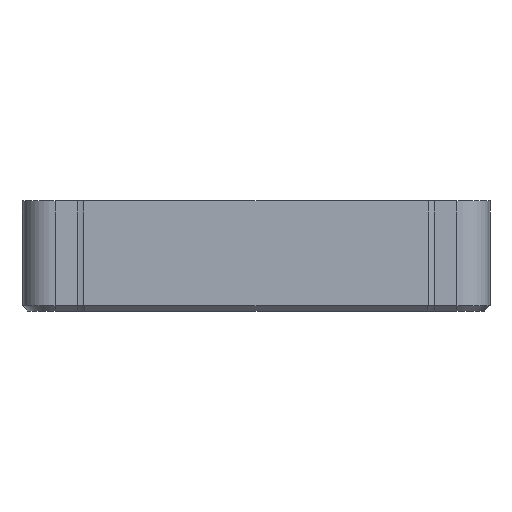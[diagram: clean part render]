
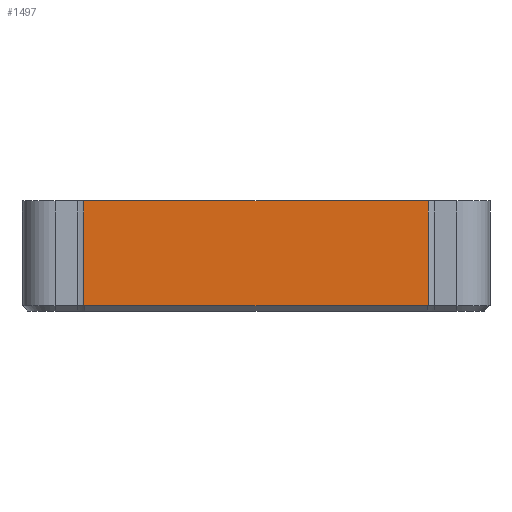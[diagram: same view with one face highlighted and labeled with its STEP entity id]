
A CAD part, front view. The second image highlights one B-rep face of the part: STEP entity #1497.
In plain terms, the highlighted planar face has unit normal (0, -1, 0).
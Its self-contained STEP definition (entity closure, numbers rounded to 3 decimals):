
#19 = ORIENTED_EDGE ( 'NONE', *, *, #1527, .T. ) ;
#36 = ORIENTED_EDGE ( 'NONE', *, *, #651, .F. ) ;
#68 = VECTOR ( 'NONE', #501, 1000. ) ;
#75 = EDGE_CURVE ( 'NONE', #1504, #1336, #1165, .T. ) ;
#89 = ORIENTED_EDGE ( 'NONE', *, *, #75, .T. ) ;
#97 = FACE_OUTER_BOUND ( 'NONE', #753, .T. ) ;
#262 = CARTESIAN_POINT ( 'NONE',  ( -62.502, -110., 40. ) ) ;
#268 = VERTEX_POINT ( 'NONE', #455 ) ;
#357 = PLANE ( 'NONE',  #1709 ) ;
#376 = CARTESIAN_POINT ( 'NONE',  ( -62.502, -110., 32. ) ) ;
#385 = LINE ( 'NONE', #639, #1480 ) ;
#455 = CARTESIAN_POINT ( 'NONE',  ( 62.502, -110., 2. ) ) ;
#469 = CARTESIAN_POINT ( 'NONE',  ( -62.502, -110., 2. ) ) ;
#501 = DIRECTION ( 'NONE',  ( 0., 0., -1. ) ) ;
#549 = VECTOR ( 'NONE', #1407, 1000. ) ;
#639 = CARTESIAN_POINT ( 'NONE',  ( 62.502, -110., 2. ) ) ;
#651 = EDGE_CURVE ( 'NONE', #1084, #268, #652, .T. ) ;
#652 = LINE ( 'NONE', #910, #68 ) ;
#753 = EDGE_LOOP ( 'NONE', ( #89, #19, #36, #1410 ) ) ;
#766 = DIRECTION ( 'NONE',  ( 1., 0., 0. ) ) ;
#891 = CARTESIAN_POINT ( 'NONE',  ( 62.502, -110., 40. ) ) ;
#910 = CARTESIAN_POINT ( 'NONE',  ( 62.502, -110., 32. ) ) ;
#920 = LINE ( 'NONE', #1273, #1452 ) ;
#1009 = DIRECTION ( 'NONE',  ( 0., 1., 0. ) ) ;
#1084 = VERTEX_POINT ( 'NONE', #891 ) ;
#1165 = LINE ( 'NONE', #376, #549 ) ;
#1273 = CARTESIAN_POINT ( 'NONE',  ( -53., -110., 40. ) ) ;
#1281 = DIRECTION ( 'NONE',  ( 1., 0., 0. ) ) ;
#1336 = VERTEX_POINT ( 'NONE', #469 ) ;
#1407 = DIRECTION ( 'NONE',  ( 0., 0., -1. ) ) ;
#1410 = ORIENTED_EDGE ( 'NONE', *, *, #1454, .F. ) ;
#1452 = VECTOR ( 'NONE', #1708, 1000. ) ;
#1454 = EDGE_CURVE ( 'NONE', #1504, #1084, #920, .T. ) ;
#1480 = VECTOR ( 'NONE', #1281, 1000. ) ;
#1497 = ADVANCED_FACE ( 'NONE', ( #97 ), #357, .F. ) ;
#1504 = VERTEX_POINT ( 'NONE', #262 ) ;
#1527 = EDGE_CURVE ( 'NONE', #1336, #268, #385, .T. ) ;
#1699 = CARTESIAN_POINT ( 'NONE',  ( -42.502, -110., 32. ) ) ;
#1708 = DIRECTION ( 'NONE',  ( 1., 0., 0. ) ) ;
#1709 = AXIS2_PLACEMENT_3D ( 'NONE', #1699, #1009, #766 ) ;
